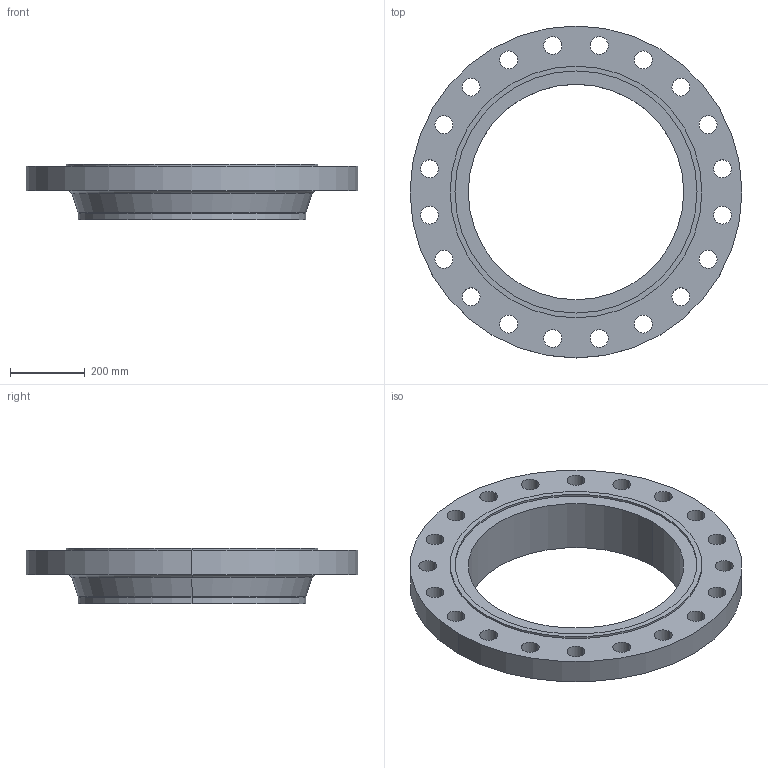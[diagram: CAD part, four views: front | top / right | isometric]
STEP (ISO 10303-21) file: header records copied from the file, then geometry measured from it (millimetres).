
FILE_DESCRIPTION (( 'STEP AP214' ), '1' );
FILE_NAME ('PN40 DN600 Type 11 - Type C Face.STEP', '2018-12-29T04:43:39', ( '' ), ( '' ), 'SwSTEP 2.0', 'SolidWorks 2019', '' );
FILE_SCHEMA (( 'AUTOMOTIVE_DESIGN' ));
Length unit declared in the file: millimetre
Products named in the file (1): PN40 DN600 Type 11 - Type C Face
Bounding box: 890 x 890 x 150 mm (x, y, z)
Volume: 25148657.2 mm3; surface area: 1434974.2 mm2
Topology: 1 solids, 1 shells, 61 faces, 162 edges, 106 vertices
Faces by surface type: cylinder 50, plane 5, torus 4, cone 2
Entity records: 2076 total; most frequent: DIRECTION 396, CARTESIAN_POINT 330, ORIENTED_EDGE 324, AXIS2_PLACEMENT_3D 172, EDGE_CURVE 162, CIRCLE 110, EDGE_LOOP 106, VERTEX_POINT 106
